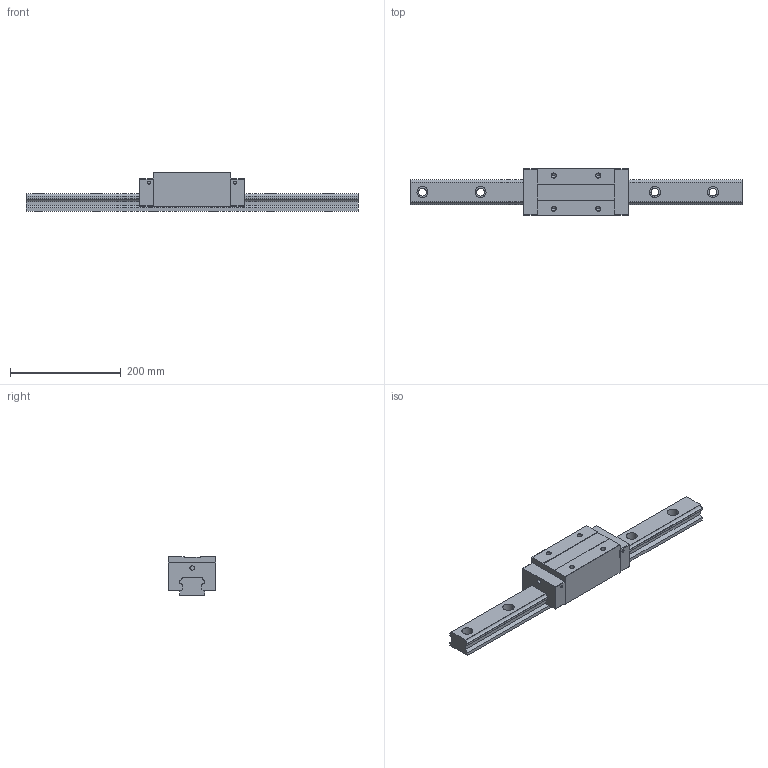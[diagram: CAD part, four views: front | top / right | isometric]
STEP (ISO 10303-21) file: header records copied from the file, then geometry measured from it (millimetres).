
FILE_DESCRIPTION (( 'STEP AP203' ), '1' );
FILE_NAME ('TRH45VE-SZ.STEP', '2024-07-10T02:40:24', ( '' ), ( '' ), 'SwSTEP 2.0', 'SolidWorks 2022', '' );
FILE_SCHEMA (( 'CONFIG_CONTROL_DESIGN' ));
Length unit declared in the file: millimetre
Products named in the file (1): TRH45VE-SZ
Bounding box: 600 x 85.5 x 70 mm (x, y, z)
Volume: 1472538.3 mm3; surface area: 182278.2 mm2
Topology: 2 solids, 2 shells, 180 faces, 472 edges, 304 vertices
Faces by surface type: plane 84, cylinder 80, cone 16
Entity records: 5607 total; most frequent: DIRECTION 994, CARTESIAN_POINT 949, ORIENTED_EDGE 928, EDGE_CURVE 464, AXIS2_PLACEMENT_3D 349, VERTEX_POINT 304, VECTOR 296, LINE 296
